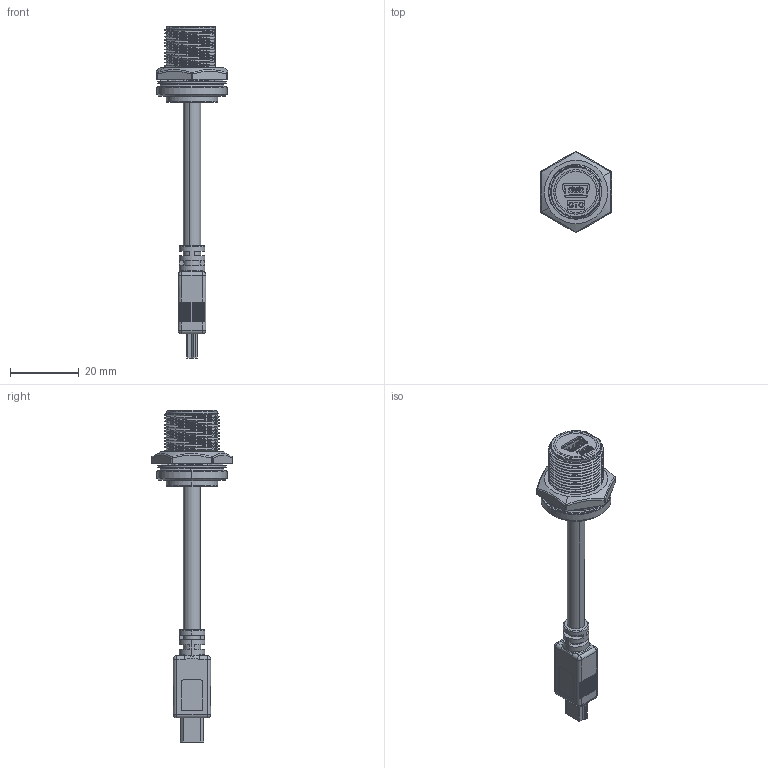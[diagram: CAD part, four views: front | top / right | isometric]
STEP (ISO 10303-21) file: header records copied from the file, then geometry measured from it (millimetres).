
FILE_DESCRIPTION (( 'STEP AP203' ), '1' );
FILE_NAME ('RR-214300-07-XX.STEP', '2025-02-26T08:14:06', ( '' ), ( '' ), 'SwSTEP 2.0', 'SolidWorks 2019', '' );
FILE_SCHEMA (( 'CONFIG_CONTROL_DESIGN' ));
Length unit declared in the file: millimetre
Products named in the file (1): RR-214300-07-XX
Bounding box: 20.6 x 23.63 x 96.25 mm (x, y, z)
Volume: 7040.4 mm3; surface area: 7129.8 mm2
Topology: 15 solids, 16 shells, 1448 faces, 4046 edges, 2604 vertices
Faces by surface type: plane 865, cylinder 410, bspline 102, torus 30, sphere 27, cone 14
Entity records: 86998 total; most frequent: CARTESIAN_POINT 50859, ORIENTED_EDGE 8068, DIRECTION 7013, EDGE_CURVE 4034, VERTEX_POINT 2604, LINE 2567, VECTOR 2567, AXIS2_PLACEMENT_3D 2223
